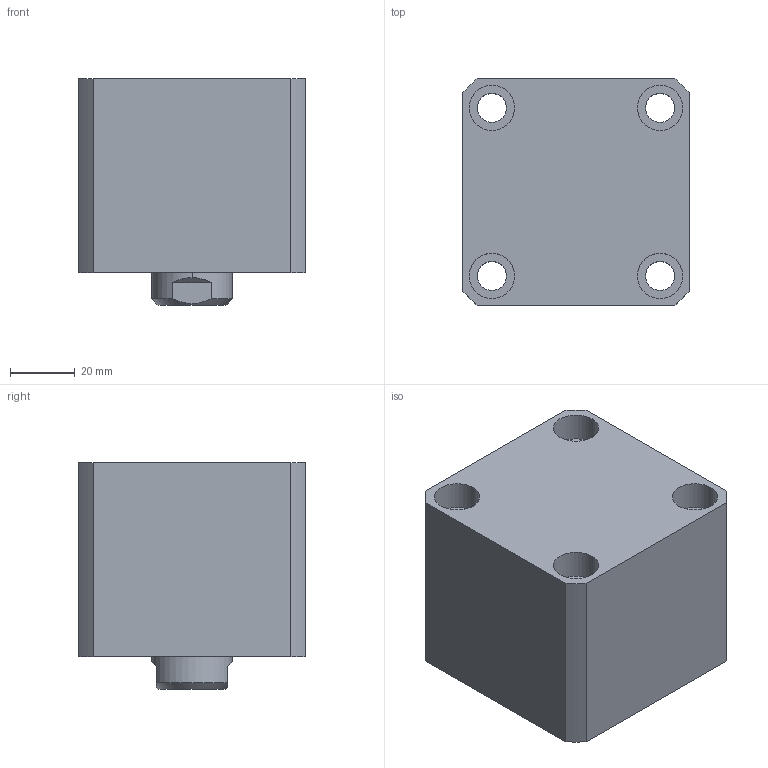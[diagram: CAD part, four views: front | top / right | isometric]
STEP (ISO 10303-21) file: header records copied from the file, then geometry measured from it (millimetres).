
FILE_DESCRIPTION (( 'STEP AP214' ), '1' );
FILE_NAME ('chtb-sd40x5n_asm.STEP', '2018-06-07T08:19:33', ( 'Windows' ), ( 'Microsoft' ), 'SwSTEP 2.0', 'SolidWorks 2015', '' );
FILE_SCHEMA (( 'AUTOMOTIVE_DESIGN' ));
Length unit declared in the file: millimetre
Products named in the file (4): CHTB-SD40X5NHSG; CHTB-SD40X5NBT; CHTB-SD40QG; chtb-sd40x5n_asm
Assembly tree (3 placements, depth 2):
  chtb-sd40x5n_asm
    CHTB-SD40QG
    CHTB-SD40X5NBT
    CHTB-SD40X5NHSG
Bounding box: 70 x 70 x 70 mm (x, y, z)
Volume: 259382.7 mm3; surface area: 61556.8 mm2
Topology: 3 solids, 3 shells, 157 faces, 401 edges, 266 vertices
Faces by surface type: cylinder 80, plane 36, bspline 14, torus 14, cone 13
Entity records: 9977 total; most frequent: CARTESIAN_POINT 6053, ORIENTED_EDGE 790, DIRECTION 768, EDGE_CURVE 395, AXIS2_PLACEMENT_3D 328, VERTEX_POINT 266, EDGE_LOOP 193, CIRCLE 179
